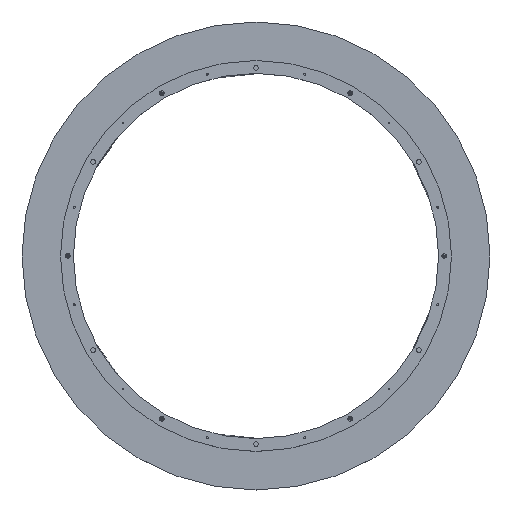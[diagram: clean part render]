
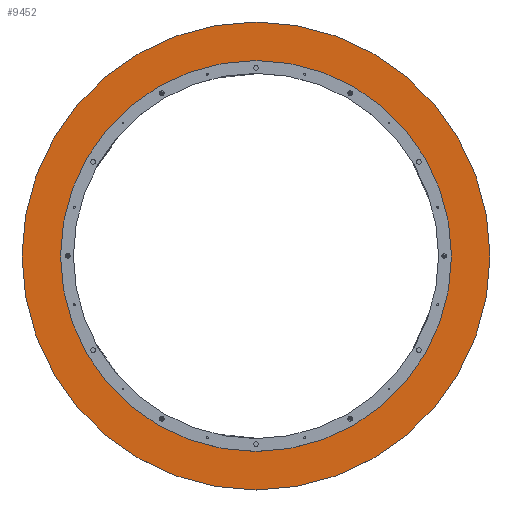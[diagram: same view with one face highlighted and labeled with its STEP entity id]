
A CAD part, top view. The second image highlights one B-rep face of the part: STEP entity #9452.
In plain terms, the highlighted planar face has unit normal (0, 0, 1) as drawn and (0, 0, -1) by its records, which use the part's own axes.
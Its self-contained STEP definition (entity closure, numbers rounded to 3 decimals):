
#9452=ADVANCED_FACE('',(#30776,#30778),#30780,.F.);
#30776=FACE_BOUND('',#30777,.T.);
#30777=EDGE_LOOP('',(#39847));
#30778=FACE_BOUND('',#30779,.T.);
#30779=EDGE_LOOP('',(#39848));
#30780=PLANE('',#30781);
#30781=AXIS2_PLACEMENT_3D('',#30782,#30783,#30784);
#30782=CARTESIAN_POINT('',(0.,0.,5.));
#30783=DIRECTION('',(0.,0.,1.));
#30784=DIRECTION('',(1.,0.,0.));
#39847=ORIENTED_EDGE('',*,*,#45564,.F.);
#39848=ORIENTED_EDGE('',*,*,#45627,.T.);
#45564=EDGE_CURVE('',#50430,#50430,#50431,.T.);
#45627=EDGE_CURVE('',#50556,#50556,#50557,.T.);
#50430=VERTEX_POINT('',#73274);
#50431=CIRCLE('',#73275,255.);
#50556=VERTEX_POINT('',#73585);
#50557=CIRCLE('',#73586,213.);
#73274=CARTESIAN_POINT('',(-255.,0.,5.));
#73275=AXIS2_PLACEMENT_3D('',#73276,#73277,#73278);
#73276=CARTESIAN_POINT('',(0.,0.,5.));
#73277=DIRECTION('',(0.,0.,1.));
#73278=DIRECTION('',(-1.,0.,0.));
#73585=CARTESIAN_POINT('',(-213.,0.,5.));
#73586=AXIS2_PLACEMENT_3D('',#73587,#73588,#73589);
#73587=CARTESIAN_POINT('',(0.,0.,5.));
#73588=DIRECTION('',(0.,0.,1.));
#73589=DIRECTION('',(-1.,0.,0.));
